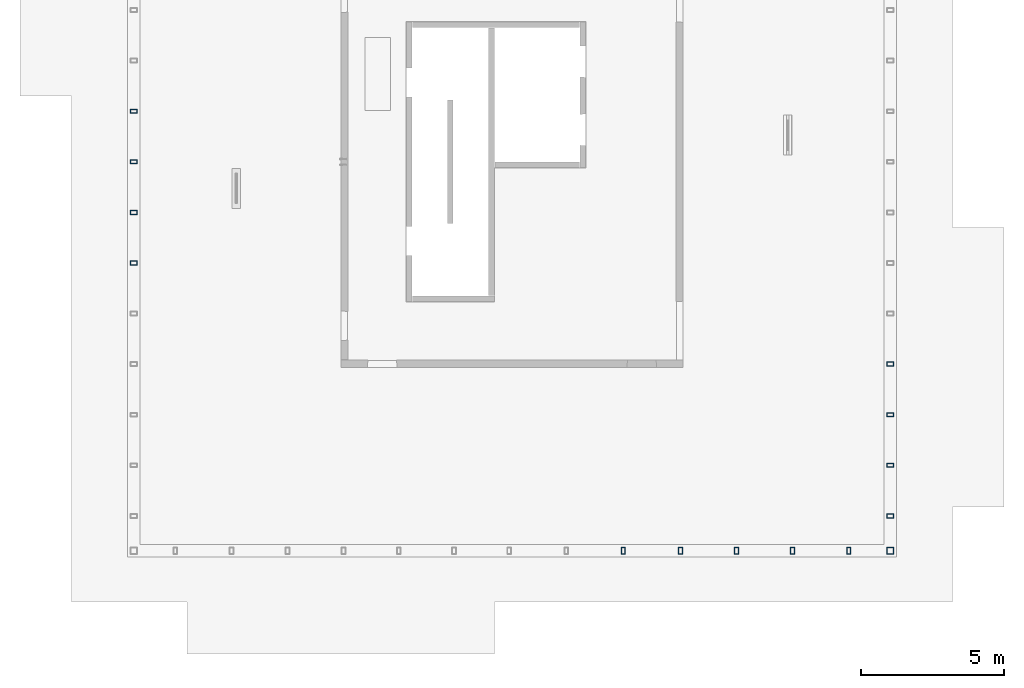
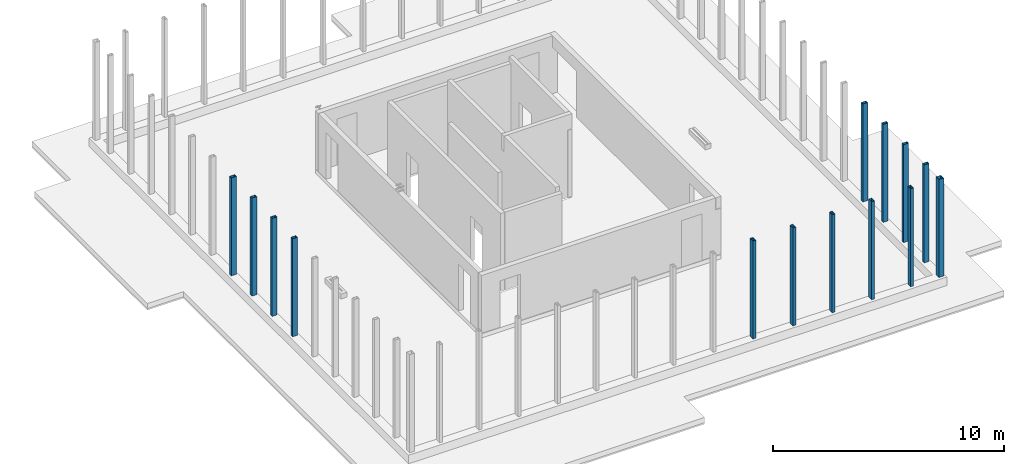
# One storey, part 2 of 9: 14 columns.
"""IFC2X3 building model written with IfcOpenShell, lengths in millimetres."""

from ifc_helpers import new_model, entity, si_unit, converted_unit, derived_unit, direction, frame, frame_2d, origin, place, context, subcontext, project, spatial, polyline, circle_curve, parameter, trimmed, segment, composite_curve, outline, extrude, source, transform, mapped, material, type_object, type_shapes, element, save


model = new_model("IFC2X3")

# Units and contexts
model_context = context("Model", 3, precision=0.01, world=origin(), true_north=direction((6.12303176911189e-17, 1.0)))
body_context = subcontext(model_context, "Body", "Model", "MODEL_VIEW")
ifc_project = project(units=[si_unit("LENGTHUNIT", "METRE", prefix="MILLI"), si_unit("AREAUNIT", "SQUARE_METRE"), si_unit("VOLUMEUNIT", "CUBIC_METRE"), converted_unit("PLANEANGLEUNIT", "DEGREE", entity("IfcRatioMeasure", 0.0174532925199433), si_unit("PLANEANGLEUNIT", "RADIAN"), dimensions=[0, 0, 0, 0, 0, 0, 0]), si_unit("MASSUNIT", "GRAM", prefix="KILO"), derived_unit("MASSDENSITYUNIT", [(si_unit("MASSUNIT", "GRAM", prefix="KILO"), 1), (si_unit("LENGTHUNIT", "METRE"), -3)]), si_unit("TIMEUNIT", "SECOND"), si_unit("FREQUENCYUNIT", "HERTZ"), si_unit("THERMODYNAMICTEMPERATUREUNIT", "DEGREE_CELSIUS"), derived_unit("THERMALTRANSMITTANCEUNIT", [(si_unit("MASSUNIT", "GRAM", prefix="KILO"), 1), (si_unit("THERMODYNAMICTEMPERATUREUNIT", "KELVIN"), -1), (si_unit("TIMEUNIT", "SECOND"), -3)]), derived_unit("VOLUMETRICFLOWRATEUNIT", [(si_unit("LENGTHUNIT", "METRE"), 3), (si_unit("TIMEUNIT", "SECOND"), -1)]), si_unit("ELECTRICCURRENTUNIT", "AMPERE"), si_unit("ELECTRICVOLTAGEUNIT", "VOLT"), si_unit("POWERUNIT", "WATT"), si_unit("FORCEUNIT", "NEWTON", prefix="KILO"), si_unit("ILLUMINANCEUNIT", "LUX"), si_unit("LUMINOUSFLUXUNIT", "LUMEN"), si_unit("LUMINOUSINTENSITYUNIT", "CANDELA"), derived_unit("USERDEFINED", [(si_unit("MASSUNIT", "GRAM", prefix="KILO"), -1), (si_unit("LENGTHUNIT", "METRE"), -2), (si_unit("TIMEUNIT", "SECOND"), 3), (si_unit("LUMINOUSFLUXUNIT", "LUMEN"), 1)]), derived_unit("LINEARVELOCITYUNIT", [(si_unit("LENGTHUNIT", "METRE"), 1), (si_unit("TIMEUNIT", "SECOND"), -1)]), si_unit("PRESSUREUNIT", "PASCAL"), derived_unit("USERDEFINED", [(si_unit("LENGTHUNIT", "METRE"), -2), (si_unit("MASSUNIT", "GRAM", prefix="KILO"), 1), (si_unit("TIMEUNIT", "SECOND"), -2)])], contexts=[model_context])

# Site, building, storey
site_placement = place(None, origin())
site = spatial("IfcSite", under=ifc_project, at=site_placement, Name="Default", CompositionType="ELEMENT")
building_placement = place(site_placement, origin())
building = spatial("IfcBuilding", under=site, at=building_placement, Name="niet gebruiken", CompositionType="ELEMENT")
storey_placement = place(building_placement, frame((0.0, 0.0, 178840.0)))
storey = spatial("IfcBuildingStorey", under=building, at=storey_placement, Name="57 zevenenvijftigste verdieping", CompositionType="ELEMENT", Elevation=178840.0)

# Columns
ifc_material = material(Name="NLRS_h2_staal")
column_type_1 = type_object("IfcColumnType", Name="kolom buisprofiel rechthoekig RHSH_250x150x16", PredefinedType="COLUMN", material=ifc_material)
shared_shape_1 = source(origin(), body_context, "Body", "SweptSolid", [
    extrude(outline(polyline([(-125.0, -75.0), (125.0, -75.0), (125.0, 75.0), (-125.0, 75.0), (-125.0, -75.0)]), holes=[composite_curve([segment(trimmed(circle_curve(frame_2d((-96.5000000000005, -46.5), x_axis=(0.0, 1.0)), 12.5), [parameter(90.0)], [parameter(180.0)], True, "PARAMETER"), False, "CONTINUOUS"), segment(polyline([(-109.0, -46.5), (-109.0, 46.5)]), True, "CONTINUOUS"), segment(trimmed(circle_curve(frame_2d((-96.5000000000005, 46.5), x_axis=(0.0, 1.0)), 12.5), [parameter(360.0)], [parameter(89.9999999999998)], True, "PARAMETER"), False, "CONTINUOUS"), segment(polyline([(-96.5000000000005, 59.0), (96.4999999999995, 59.0)]), True, "CONTINUOUS"), segment(trimmed(circle_curve(frame_2d((96.4999999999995, 46.5), x_axis=(0.0, 1.0)), 12.5), [parameter(270.0)], [parameter(360.0)], True, "PARAMETER"), False, "CONTINUOUS"), segment(polyline([(109.0, 46.5), (109.0, -46.5)]), True, "CONTINUOUS"), segment(trimmed(circle_curve(frame_2d((96.4999999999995, -46.5), x_axis=(0.0, 1.0)), 12.5), [parameter(180.0)], [parameter(270.0)], True, "PARAMETER"), False, "CONTINUOUS"), segment(polyline([(96.4999999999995, -59.0), (-96.5000000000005, -59.0)]), True, "CONTINUOUS")], self_intersect=False)]), frame((147650.0, 3870.0, 179010.0), z_axis=(0.0, 0.0, 1.0), x_axis=(0.0, -1.0, 0.0)), (0.0, 0.0, 1.0), 5190.00000000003),
])
type_shapes(column_type_1, [shared_shape_1])
column_1_placement = place(storey_placement, frame((0.0, 0.0, -178840.0)))
element("IfcColumn", 1, at=column_1_placement, inside=storey, type_object=column_type_1, material=ifc_material, Name="NLRS_28.11_SCO_TLB_stalen kolom buisprofiel rechthoekig_gen:kolom buisprofiel rechthoekig RHSH_250x150x16", ObjectType="kolom buisprofiel rechthoekig RHSH_250x150x16", context=body_context, shape_type="MappedRepresentation", body=[
    mapped(shared_shape_1, transform((0.0, 0.0, 0.0), scale=1.0)),
])
column_type_2 = type_object("IfcColumnType", Name="kolom buisprofiel rechthoekig RHSH_250x150x16", PredefinedType="COLUMN", material=ifc_material)
shared_shape_2 = source(origin(), body_context, "Body", "SweptSolid", [
    extrude(outline(polyline([(-125.0, -75.0), (125.0, -75.0), (125.0, 75.0), (-125.0, 75.0), (-125.0, -75.0)]), holes=[composite_curve([segment(trimmed(circle_curve(frame_2d((-96.5000000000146, -46.5), x_axis=(0.0, 1.0)), 12.5), [parameter(90.0)], [parameter(180.0)], True, "PARAMETER"), False, "CONTINUOUS"), segment(polyline([(-109.0, -46.5), (-109.0, 46.5)]), True, "CONTINUOUS"), segment(trimmed(circle_curve(frame_2d((-96.5000000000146, 46.5), x_axis=(0.0, 1.0)), 12.5), [parameter(360.0)], [parameter(89.9999999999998)], True, "PARAMETER"), False, "CONTINUOUS"), segment(polyline([(-96.5, 59.0), (96.4999999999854, 59.0)]), True, "CONTINUOUS"), segment(trimmed(circle_curve(frame_2d((96.4999999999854, 46.5), x_axis=(0.0, 1.0)), 12.5), [parameter(270.0)], [parameter(360.0)], True, "PARAMETER"), False, "CONTINUOUS"), segment(polyline([(109.0, 46.5), (109.0, -46.5)]), True, "CONTINUOUS"), segment(trimmed(circle_curve(frame_2d((96.4999999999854, -46.5), x_axis=(0.0, 1.0)), 12.5), [parameter(180.0)], [parameter(270.0)], True, "PARAMETER"), False, "CONTINUOUS"), segment(polyline([(96.4999999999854, -59.0), (-96.5, -59.0)]), True, "CONTINUOUS")], self_intersect=False)]), frame((128495.0, 17500.0, 179010.0)), (0.0, 0.0, 1.0), 5190.00000000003),
])
type_shapes(column_type_2, [shared_shape_2])
column_2_placement = place(storey_placement, frame((0.0, 0.0, -178840.0)))
element("IfcColumn", 2, at=column_2_placement, inside=storey, type_object=column_type_2, material=ifc_material, Name="NLRS_28.11_SCO_TLB_stalen kolom buisprofiel rechthoekig_gen:kolom buisprofiel rechthoekig RHSH_250x150x16", ObjectType="kolom buisprofiel rechthoekig RHSH_250x150x16", context=body_context, shape_type="MappedRepresentation", body=[
    mapped(shared_shape_2, transform((0.0, 0.0, 0.0), scale=1.0)),
])
column_type_3 = type_object("IfcColumnType", Name="kolom buisprofiel rechthoekig RHSH_250x150x16", PredefinedType="COLUMN", material=ifc_material)
shared_shape_3 = source(origin(), body_context, "Body", "SweptSolid", [
    extrude(outline(polyline([(-125.0, -75.0), (125.0, -75.0), (125.0, 75.0), (-125.0, 75.0), (-125.0, -75.0)]), holes=[composite_curve([segment(trimmed(circle_curve(frame_2d((-96.5, -46.5), x_axis=(0.0, 1.0)), 12.5), [parameter(90.0)], [parameter(180.0)], True, "PARAMETER"), False, "CONTINUOUS"), segment(polyline([(-109.0, -46.5), (-109.0, 46.5)]), True, "CONTINUOUS"), segment(trimmed(circle_curve(frame_2d((-96.5, 46.5), x_axis=(0.0, 1.0)), 12.5), [parameter(360.0)], [parameter(89.9999999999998)], True, "PARAMETER"), False, "CONTINUOUS"), segment(polyline([(-96.4999999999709, 59.0), (96.5000000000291, 59.0)]), True, "CONTINUOUS"), segment(trimmed(circle_curve(frame_2d((96.5000000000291, 46.5), x_axis=(0.0, 1.0)), 12.5), [parameter(270.0)], [parameter(360.0)], True, "PARAMETER"), False, "CONTINUOUS"), segment(polyline([(109.0, 46.5), (109.0, -46.5)]), True, "CONTINUOUS"), segment(trimmed(circle_curve(frame_2d((96.5000000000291, -46.5), x_axis=(0.0, 1.0)), 12.5), [parameter(180.0)], [parameter(270.0)], True, "PARAMETER"), False, "CONTINUOUS"), segment(polyline([(96.5000000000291, -59.0), (-96.4999999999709, -59.0)]), True, "CONTINUOUS")], self_intersect=False)]), frame((155005.0, 10410.0, 179010.0)), (0.0, 0.0, 1.0), 5190.00000000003),
])
type_shapes(column_type_3, [shared_shape_3])
column_3_placement = place(storey_placement, frame((0.0, 0.0, -178840.0)))
element("IfcColumn", 3, at=column_3_placement, inside=storey, type_object=column_type_3, material=ifc_material, Name="NLRS_28.11_SCO_TLB_stalen kolom buisprofiel rechthoekig_gen:kolom buisprofiel rechthoekig RHSH_250x150x16", ObjectType="kolom buisprofiel rechthoekig RHSH_250x150x16", context=body_context, shape_type="MappedRepresentation", body=[
    mapped(shared_shape_3, transform((0.0, 0.0, 0.0), scale=1.0)),
])
column_type_4 = type_object("IfcColumnType", Name="kolom buisprofiel rechthoekig RHSH_250x150x16", PredefinedType="COLUMN", material=ifc_material)
shared_shape_4 = source(origin(), body_context, "Body", "SweptSolid", [
    extrude(outline(polyline([(-125.0, -75.0), (125.0, -75.0), (125.0, 75.0), (-125.0, 75.0), (-125.0, -75.0)]), holes=[composite_curve([segment(trimmed(circle_curve(frame_2d((-96.5, -46.5), x_axis=(0.0, 1.0)), 12.5), [parameter(90.0)], [parameter(180.0)], True, "PARAMETER"), False, "CONTINUOUS"), segment(polyline([(-109.0, -46.5), (-109.0, 46.5000000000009)]), True, "CONTINUOUS"), segment(trimmed(circle_curve(frame_2d((-96.5, 46.5000000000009), x_axis=(0.0, 1.0)), 12.5), [parameter(360.0)], [parameter(89.9999999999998)], True, "PARAMETER"), False, "CONTINUOUS"), segment(polyline([(-96.4999999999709, 59.0), (96.5000000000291, 59.0)]), True, "CONTINUOUS"), segment(trimmed(circle_curve(frame_2d((96.5000000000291, 46.5000000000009), x_axis=(0.0, 1.0)), 12.5), [parameter(270.0)], [parameter(360.0)], True, "PARAMETER"), False, "CONTINUOUS"), segment(polyline([(109.0, 46.4999999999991), (109.0, -46.5)]), True, "CONTINUOUS"), segment(trimmed(circle_curve(frame_2d((96.5000000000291, -46.5), x_axis=(0.0, 1.0)), 12.5), [parameter(180.0)], [parameter(270.0)], True, "PARAMETER"), False, "CONTINUOUS"), segment(polyline([(96.5000000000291, -59.0), (-96.4999999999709, -59.0)]), True, "CONTINUOUS")], self_intersect=False)]), frame((155005.0, 5092.50000000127, 179010.0)), (0.0, 0.0, 1.0), 5190.00000000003),
])
type_shapes(column_type_4, [shared_shape_4])
column_4_placement = place(storey_placement, frame((0.0, 0.0, -178840.0)))
element("IfcColumn", 4, at=column_4_placement, inside=storey, type_object=column_type_4, material=ifc_material, Name="NLRS_28.11_SCO_TLB_stalen kolom buisprofiel rechthoekig_gen:kolom buisprofiel rechthoekig RHSH_250x150x16", ObjectType="kolom buisprofiel rechthoekig RHSH_250x150x16", context=body_context, shape_type="MappedRepresentation", body=[
    mapped(shared_shape_4, transform((0.0, 0.0, 0.0), scale=1.0)),
])
column_type_5 = type_object("IfcColumnType", Name="kolom buisprofiel rechthoekig RHSH_250x150x16", PredefinedType="COLUMN", material=ifc_material)
shared_shape_5 = source(origin(), body_context, "Body", "SweptSolid", [
    extrude(outline(polyline([(-125.0, -75.0), (125.0, -75.0), (125.0, 75.0), (-125.0, 75.0), (-125.0, -75.0)]), holes=[composite_curve([segment(trimmed(circle_curve(frame_2d((-96.5000000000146, -46.5), x_axis=(0.0, 1.0)), 12.5), [parameter(90.0)], [parameter(180.0)], True, "PARAMETER"), False, "CONTINUOUS"), segment(polyline([(-109.0, -46.5), (-109.0, 46.5)]), True, "CONTINUOUS"), segment(trimmed(circle_curve(frame_2d((-96.5000000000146, 46.5), x_axis=(0.0, 1.0)), 12.5), [parameter(360.0)], [parameter(89.9999999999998)], True, "PARAMETER"), False, "CONTINUOUS"), segment(polyline([(-96.5, 59.0), (96.4999999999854, 59.0)]), True, "CONTINUOUS"), segment(trimmed(circle_curve(frame_2d((96.4999999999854, 46.5), x_axis=(0.0, 1.0)), 12.5), [parameter(270.0)], [parameter(360.0)], True, "PARAMETER"), False, "CONTINUOUS"), segment(polyline([(109.0, 46.5), (109.0, -46.5)]), True, "CONTINUOUS"), segment(trimmed(circle_curve(frame_2d((96.4999999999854, -46.5), x_axis=(0.0, 1.0)), 12.5), [parameter(180.0)], [parameter(270.0)], True, "PARAMETER"), False, "CONTINUOUS"), segment(polyline([(96.4999999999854, -59.0), (-96.5, -59.0)]), True, "CONTINUOUS")], self_intersect=False)]), frame((128495.0, 19272.500000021, 179010.0)), (0.0, 0.0, 1.0), 5190.00000000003),
])
type_shapes(column_type_5, [shared_shape_5])
column_5_placement = place(storey_placement, frame((0.0, 0.0, -178840.0)))
element("IfcColumn", 5, at=column_5_placement, inside=storey, type_object=column_type_5, material=ifc_material, Name="NLRS_28.11_SCO_TLB_stalen kolom buisprofiel rechthoekig_gen:kolom buisprofiel rechthoekig RHSH_250x150x16", ObjectType="kolom buisprofiel rechthoekig RHSH_250x150x16", context=body_context, shape_type="MappedRepresentation", body=[
    mapped(shared_shape_5, transform((0.0, 0.0, 0.0), scale=1.0)),
])
column_type_6 = type_object("IfcColumnType", Name="kolom buisprofiel rechthoekig RHSH_250x150x16", PredefinedType="COLUMN", material=ifc_material)
shared_shape_6 = source(origin(), body_context, "Body", "SweptSolid", [
    extrude(outline(polyline([(-125.0, -75.0), (125.0, -75.0), (125.0, 75.0), (-125.0, 75.0), (-125.0, -75.0)]), holes=[composite_curve([segment(trimmed(circle_curve(frame_2d((-96.5000000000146, -46.5), x_axis=(0.0, 1.0)), 12.5), [parameter(90.0)], [parameter(180.0)], True, "PARAMETER"), False, "CONTINUOUS"), segment(polyline([(-109.0, -46.5), (-109.0, 46.5)]), True, "CONTINUOUS"), segment(trimmed(circle_curve(frame_2d((-96.5000000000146, 46.5), x_axis=(0.0, 1.0)), 12.5), [parameter(360.0)], [parameter(89.9999999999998)], True, "PARAMETER"), False, "CONTINUOUS"), segment(polyline([(-96.5, 59.0), (96.4999999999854, 59.0)]), True, "CONTINUOUS"), segment(trimmed(circle_curve(frame_2d((96.4999999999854, 46.5), x_axis=(0.0, 1.0)), 12.5), [parameter(270.0)], [parameter(360.0)], True, "PARAMETER"), False, "CONTINUOUS"), segment(polyline([(109.0, 46.5), (109.0, -46.5)]), True, "CONTINUOUS"), segment(trimmed(circle_curve(frame_2d((96.4999999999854, -46.5), x_axis=(0.0, 1.0)), 12.5), [parameter(180.0)], [parameter(270.0)], True, "PARAMETER"), False, "CONTINUOUS"), segment(polyline([(96.4999999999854, -59.0), (-96.5, -59.0)]), True, "CONTINUOUS")], self_intersect=False)]), frame((128495.0, 15727.5000000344, 179010.0)), (0.0, 0.0, 1.0), 5190.00000000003),
])
type_shapes(column_type_6, [shared_shape_6])
column_6_placement = place(storey_placement, frame((0.0, 0.0, -178840.0)))
element("IfcColumn", 6, at=column_6_placement, inside=storey, type_object=column_type_6, material=ifc_material, Name="NLRS_28.11_SCO_TLB_stalen kolom buisprofiel rechthoekig_gen:kolom buisprofiel rechthoekig RHSH_250x150x16", ObjectType="kolom buisprofiel rechthoekig RHSH_250x150x16", context=body_context, shape_type="MappedRepresentation", body=[
    mapped(shared_shape_6, transform((0.0, 0.0, 0.0), scale=1.0)),
])
column_type_7 = type_object("IfcColumnType", Name="kolom buisprofiel rechthoekig RHSH_250x150x16", PredefinedType="COLUMN", material=ifc_material)
shared_shape_7 = source(origin(), body_context, "Body", "SweptSolid", [
    extrude(outline(polyline([(-125.0, -75.0), (125.0, -75.0), (125.0, 75.0), (-125.0, 75.0), (-125.0, -75.0)]), holes=[composite_curve([segment(trimmed(circle_curve(frame_2d((-96.5000000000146, -46.5), x_axis=(0.0, 1.0)), 12.5), [parameter(90.0)], [parameter(180.0)], True, "PARAMETER"), False, "CONTINUOUS"), segment(polyline([(-109.0, -46.5), (-109.0, 46.5)]), True, "CONTINUOUS"), segment(trimmed(circle_curve(frame_2d((-96.5000000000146, 46.5), x_axis=(0.0, 1.0)), 12.5), [parameter(360.0)], [parameter(89.9999999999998)], True, "PARAMETER"), False, "CONTINUOUS"), segment(polyline([(-96.5, 59.0), (96.4999999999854, 59.0)]), True, "CONTINUOUS"), segment(trimmed(circle_curve(frame_2d((96.4999999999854, 46.5), x_axis=(0.0, 1.0)), 12.5), [parameter(270.0)], [parameter(360.0)], True, "PARAMETER"), False, "CONTINUOUS"), segment(polyline([(109.0, 46.5), (109.0, -46.5)]), True, "CONTINUOUS"), segment(trimmed(circle_curve(frame_2d((96.4999999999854, -46.5), x_axis=(0.0, 1.0)), 12.5), [parameter(180.0)], [parameter(270.0)], True, "PARAMETER"), False, "CONTINUOUS"), segment(polyline([(96.4999999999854, -59.0), (-96.5, -59.0)]), True, "CONTINUOUS")], self_intersect=False)]), frame((128495.0, 13955.0, 179010.0)), (0.0, 0.0, 1.0), 5190.00000000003),
])
type_shapes(column_type_7, [shared_shape_7])
column_7_placement = place(storey_placement, frame((0.0, 0.0, -178840.0)))
element("IfcColumn", 7, at=column_7_placement, inside=storey, type_object=column_type_7, material=ifc_material, Name="NLRS_28.11_SCO_TLB_stalen kolom buisprofiel rechthoekig_gen:kolom buisprofiel rechthoekig RHSH_250x150x16", ObjectType="kolom buisprofiel rechthoekig RHSH_250x150x16", context=body_context, shape_type="MappedRepresentation", body=[
    mapped(shared_shape_7, transform((0.0, 0.0, 0.0), scale=1.0)),
])
column_type_8 = type_object("IfcColumnType", Name="kolom buisprofiel rechthoekig RHSH_250x150x16", PredefinedType="COLUMN", material=ifc_material)
shared_shape_8 = source(origin(), body_context, "Body", "SweptSolid", [
    extrude(outline(polyline([(-125.0, -75.0), (125.0, -75.0), (125.0, 75.0), (-125.0, 75.0), (-125.0, -75.0)]), holes=[composite_curve([segment(trimmed(circle_curve(frame_2d((-96.5, -46.5), x_axis=(0.0, 1.0)), 12.5), [parameter(90.0)], [parameter(180.0)], True, "PARAMETER"), False, "CONTINUOUS"), segment(polyline([(-109.0, -46.5), (-109.0, 46.5)]), True, "CONTINUOUS"), segment(trimmed(circle_curve(frame_2d((-96.5, 46.5), x_axis=(0.0, 1.0)), 12.5), [parameter(360.0)], [parameter(89.9999999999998)], True, "PARAMETER"), False, "CONTINUOUS"), segment(polyline([(-96.4999999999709, 59.0), (96.5000000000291, 59.0)]), True, "CONTINUOUS"), segment(trimmed(circle_curve(frame_2d((96.5000000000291, 46.5), x_axis=(0.0, 1.0)), 12.5), [parameter(270.0)], [parameter(360.0)], True, "PARAMETER"), False, "CONTINUOUS"), segment(polyline([(109.0, 46.4999999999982), (109.0, -46.5)]), True, "CONTINUOUS"), segment(trimmed(circle_curve(frame_2d((96.5000000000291, -46.5), x_axis=(0.0, 1.0)), 12.5), [parameter(180.0)], [parameter(270.0)], True, "PARAMETER"), False, "CONTINUOUS"), segment(polyline([(96.5000000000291, -59.0), (-96.4999999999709, -59.0)]), True, "CONTINUOUS")], self_intersect=False)]), frame((155005.0, 8637.50000000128, 179010.0)), (0.0, 0.0, 1.0), 5190.00000000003),
])
type_shapes(column_type_8, [shared_shape_8])
column_8_placement = place(storey_placement, frame((0.0, 0.0, -178840.0)))
element("IfcColumn", 8, at=column_8_placement, inside=storey, type_object=column_type_8, material=ifc_material, Name="NLRS_28.11_SCO_TLB_stalen kolom buisprofiel rechthoekig_gen:kolom buisprofiel rechthoekig RHSH_250x150x16", ObjectType="kolom buisprofiel rechthoekig RHSH_250x150x16", context=body_context, shape_type="MappedRepresentation", body=[
    mapped(shared_shape_8, transform((0.0, 0.0, 0.0), scale=1.0)),
])
column_type_9 = type_object("IfcColumnType", Name="kolom buisprofiel rechthoekig RHSH_250x150x16", PredefinedType="COLUMN", material=ifc_material)
shared_shape_9 = source(origin(), body_context, "Body", "SweptSolid", [
    extrude(outline(polyline([(-125.0, -75.0), (125.0, -75.0), (125.0, 75.0), (-125.0, 75.0), (-125.0, -75.0)]), holes=[composite_curve([segment(trimmed(circle_curve(frame_2d((-96.5, -46.5), x_axis=(0.0, 1.0)), 12.5), [parameter(90.0)], [parameter(180.0)], True, "PARAMETER"), False, "CONTINUOUS"), segment(polyline([(-109.0, -46.5), (-109.0, 46.5000000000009)]), True, "CONTINUOUS"), segment(trimmed(circle_curve(frame_2d((-96.5, 46.5000000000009), x_axis=(0.0, 1.0)), 12.5), [parameter(360.0)], [parameter(89.9999999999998)], True, "PARAMETER"), False, "CONTINUOUS"), segment(polyline([(-96.4999999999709, 59.0), (96.5000000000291, 59.0)]), True, "CONTINUOUS"), segment(trimmed(circle_curve(frame_2d((96.5000000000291, 46.5000000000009), x_axis=(0.0, 1.0)), 12.5), [parameter(270.0)], [parameter(360.0)], True, "PARAMETER"), False, "CONTINUOUS"), segment(polyline([(109.0, 46.5), (109.0, -46.5)]), True, "CONTINUOUS"), segment(trimmed(circle_curve(frame_2d((96.5000000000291, -46.5), x_axis=(0.0, 1.0)), 12.5), [parameter(180.0)], [parameter(270.0)], True, "PARAMETER"), False, "CONTINUOUS"), segment(polyline([(96.5000000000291, -59.0), (-96.4999999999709, -59.0)]), True, "CONTINUOUS")], self_intersect=False)]), frame((155005.0, 6865.0, 179010.0)), (0.0, 0.0, 1.0), 5190.00000000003),
])
type_shapes(column_type_9, [shared_shape_9])
column_9_placement = place(storey_placement, frame((0.0, 0.0, -178840.0)))
element("IfcColumn", 9, at=column_9_placement, inside=storey, type_object=column_type_9, material=ifc_material, Name="NLRS_28.11_SCO_TLB_stalen kolom buisprofiel rechthoekig_gen:kolom buisprofiel rechthoekig RHSH_250x150x16", ObjectType="kolom buisprofiel rechthoekig RHSH_250x150x16", context=body_context, shape_type="MappedRepresentation", body=[
    mapped(shared_shape_9, transform((0.0, 0.0, 0.0), scale=1.0)),
])
column_type_10 = type_object("IfcColumnType", Name="kolom buisprofiel rechthoekig RHSH_250x150x16", PredefinedType="COLUMN", material=ifc_material)
shared_shape_10 = source(origin(), body_context, "Body", "SweptSolid", [
    extrude(outline(polyline([(-125.0, -75.0), (125.0, -75.0), (125.0, 75.0), (-125.0, 75.0), (-125.0, -75.0)]), holes=[composite_curve([segment(trimmed(circle_curve(frame_2d((-96.4999999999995, -46.5), x_axis=(0.0, 1.0)), 12.5), [parameter(90.0)], [parameter(180.0)], True, "PARAMETER"), False, "CONTINUOUS"), segment(polyline([(-109.0, -46.5), (-109.0, 46.5)]), True, "CONTINUOUS"), segment(trimmed(circle_curve(frame_2d((-96.4999999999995, 46.5), x_axis=(0.0, 1.0)), 12.5), [parameter(360.0)], [parameter(89.9999999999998)], True, "PARAMETER"), False, "CONTINUOUS"), segment(polyline([(-96.4999999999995, 59.0), (96.5000000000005, 59.0)]), True, "CONTINUOUS"), segment(trimmed(circle_curve(frame_2d((96.5000000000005, 46.5), x_axis=(0.0, 1.0)), 12.5), [parameter(270.0)], [parameter(360.0)], True, "PARAMETER"), False, "CONTINUOUS"), segment(polyline([(109.0, 46.5), (109.0, -46.5)]), True, "CONTINUOUS"), segment(trimmed(circle_curve(frame_2d((96.5000000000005, -46.5), x_axis=(0.0, 1.0)), 12.5), [parameter(180.0)], [parameter(270.0)], True, "PARAMETER"), False, "CONTINUOUS"), segment(polyline([(96.5000000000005, -59.0), (-96.4999999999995, -59.0)]), True, "CONTINUOUS")], self_intersect=False)]), frame((145650.0, 3870.0, 179010.0), z_axis=(0.0, 0.0, 1.0), x_axis=(0.0, -1.0, 0.0)), (0.0, 0.0, 1.0), 5190.00000000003),
])
type_shapes(column_type_10, [shared_shape_10])
column_10_placement = place(storey_placement, frame((0.0, 0.0, -178840.0)))
element("IfcColumn", 10, at=column_10_placement, inside=storey, type_object=column_type_10, material=ifc_material, Name="NLRS_28.11_SCO_TLB_stalen kolom buisprofiel rechthoekig_gen:kolom buisprofiel rechthoekig RHSH_250x150x16", ObjectType="kolom buisprofiel rechthoekig RHSH_250x150x16", context=body_context, shape_type="MappedRepresentation", body=[
    mapped(shared_shape_10, transform((0.0, 0.0, 0.0), scale=1.0)),
])
column_type_11 = type_object("IfcColumnType", Name="kolom buisprofiel rechthoekig RHSH_250x150x16", PredefinedType="COLUMN", material=ifc_material)
shared_shape_11 = source(origin(), body_context, "Body", "SweptSolid", [
    extrude(outline(polyline([(-125.0, -75.0), (125.0, -75.0), (125.0, 75.0), (-125.0, 75.0), (-125.0, -75.0)]), holes=[composite_curve([segment(trimmed(circle_curve(frame_2d((-96.5, -46.5), x_axis=(0.0, 1.0)), 12.5), [parameter(90.0)], [parameter(180.0)], True, "PARAMETER"), False, "CONTINUOUS"), segment(polyline([(-109.0, -46.5), (-109.0, 46.5)]), True, "CONTINUOUS"), segment(trimmed(circle_curve(frame_2d((-96.5, 46.5), x_axis=(0.0, 1.0)), 12.5), [parameter(360.0)], [parameter(89.9999999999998)], True, "PARAMETER"), False, "CONTINUOUS"), segment(polyline([(-96.5, 59.0), (96.5, 59.0)]), True, "CONTINUOUS"), segment(trimmed(circle_curve(frame_2d((96.5, 46.5), x_axis=(0.0, 1.0)), 12.5), [parameter(270.0)], [parameter(360.0)], True, "PARAMETER"), False, "CONTINUOUS"), segment(polyline([(109.0, 46.5), (109.0, -46.5)]), True, "CONTINUOUS"), segment(trimmed(circle_curve(frame_2d((96.5, -46.5), x_axis=(0.0, 1.0)), 12.5), [parameter(180.0)], [parameter(270.0)], True, "PARAMETER"), False, "CONTINUOUS"), segment(polyline([(96.5, -59.0), (-96.5, -59.0)]), True, "CONTINUOUS")], self_intersect=False)]), frame((149616.666666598, 3870.0, 179010.0), z_axis=(0.0, 0.0, 1.0), x_axis=(0.0, -1.0, 0.0)), (0.0, 0.0, 1.0), 5190.00000000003),
])
type_shapes(column_type_11, [shared_shape_11])
column_11_placement = place(storey_placement, frame((0.0, 0.0, -178840.0)))
element("IfcColumn", 11, at=column_11_placement, inside=storey, type_object=column_type_11, material=ifc_material, Name="NLRS_28.11_SCO_TLB_stalen kolom buisprofiel rechthoekig_gen:kolom buisprofiel rechthoekig RHSH_250x150x16", ObjectType="kolom buisprofiel rechthoekig RHSH_250x150x16", context=body_context, shape_type="MappedRepresentation", body=[
    mapped(shared_shape_11, transform((0.0, 0.0, 0.0), scale=1.0)),
])
column_type_12 = type_object("IfcColumnType", Name="kolom buisprofiel rechthoekig RHSH_250x150x16", PredefinedType="COLUMN", material=ifc_material)
shared_shape_12 = source(origin(), body_context, "Body", "SweptSolid", [
    extrude(outline(polyline([(-125.0, -75.0), (125.0, -75.0), (125.0, 75.0), (-125.0, 75.0), (-125.0, -75.0)]), holes=[composite_curve([segment(trimmed(circle_curve(frame_2d((-96.4999999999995, -46.5), x_axis=(0.0, 1.0)), 12.5), [parameter(90.0)], [parameter(180.0)], True, "PARAMETER"), False, "CONTINUOUS"), segment(polyline([(-109.0, -46.5), (-109.0, 46.4999999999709)]), True, "CONTINUOUS"), segment(trimmed(circle_curve(frame_2d((-96.4999999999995, 46.4999999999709), x_axis=(0.0, 1.0)), 12.5), [parameter(360.0)], [parameter(89.9999999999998)], True, "PARAMETER"), False, "CONTINUOUS"), segment(polyline([(-96.4999999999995, 59.0), (96.5, 59.0)]), True, "CONTINUOUS"), segment(trimmed(circle_curve(frame_2d((96.5, 46.4999999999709), x_axis=(0.0, 1.0)), 12.5), [parameter(270.0)], [parameter(360.0)], True, "PARAMETER"), False, "CONTINUOUS"), segment(polyline([(109.0, 46.4999999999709), (109.0, -46.5)]), True, "CONTINUOUS"), segment(trimmed(circle_curve(frame_2d((96.5, -46.5), x_axis=(0.0, 1.0)), 12.5), [parameter(180.0)], [parameter(270.0)], True, "PARAMETER"), False, "CONTINUOUS"), segment(polyline([(96.5, -59.0), (-96.4999999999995, -59.0)]), True, "CONTINUOUS")], self_intersect=False)]), frame((151583.333333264, 3870.0, 179010.0), z_axis=(0.0, 0.0, 1.0), x_axis=(0.0, -1.0, 0.0)), (0.0, 0.0, 1.0), 5190.00000000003),
])
type_shapes(column_type_12, [shared_shape_12])
column_12_placement = place(storey_placement, frame((0.0, 0.0, -178840.0)))
element("IfcColumn", 12, at=column_12_placement, inside=storey, type_object=column_type_12, material=ifc_material, Name="NLRS_28.11_SCO_TLB_stalen kolom buisprofiel rechthoekig_gen:kolom buisprofiel rechthoekig RHSH_250x150x16", ObjectType="kolom buisprofiel rechthoekig RHSH_250x150x16", context=body_context, shape_type="MappedRepresentation", body=[
    mapped(shared_shape_12, transform((0.0, 0.0, 0.0), scale=1.0)),
])
column_type_13 = type_object("IfcColumnType", Name="kolom buisprofiel rechthoekig RHSH_250x150x16", PredefinedType="COLUMN", material=ifc_material)
shared_shape_13 = source(origin(), body_context, "Body", "SweptSolid", [
    extrude(outline(polyline([(-125.0, -75.0), (125.0, -75.0), (125.0, 75.0), (-125.0, 75.0), (-125.0, -75.0)]), holes=[composite_curve([segment(trimmed(circle_curve(frame_2d((-96.4999999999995, -46.4999999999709), x_axis=(0.0, 1.0)), 12.5), [parameter(90.0)], [parameter(180.0)], True, "PARAMETER"), False, "CONTINUOUS"), segment(polyline([(-109.0, -46.4999999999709), (-109.0, 46.5)]), True, "CONTINUOUS"), segment(trimmed(circle_curve(frame_2d((-96.4999999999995, 46.5), x_axis=(0.0, 1.0)), 12.5), [parameter(360.0)], [parameter(89.9999999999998)], True, "PARAMETER"), False, "CONTINUOUS"), segment(polyline([(-96.4999999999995, 59.0), (96.5000000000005, 59.0)]), True, "CONTINUOUS"), segment(trimmed(circle_curve(frame_2d((96.5000000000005, 46.5), x_axis=(0.0, 1.0)), 12.5), [parameter(270.0)], [parameter(360.0)], True, "PARAMETER"), False, "CONTINUOUS"), segment(polyline([(109.0, 46.5), (109.0, -46.4999999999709)]), True, "CONTINUOUS"), segment(trimmed(circle_curve(frame_2d((96.5000000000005, -46.4999999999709), x_axis=(0.0, 1.0)), 12.5), [parameter(180.0)], [parameter(270.0)], True, "PARAMETER"), False, "CONTINUOUS"), segment(polyline([(96.5000000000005, -59.0), (-96.4999999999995, -59.0)]), True, "CONTINUOUS")], self_intersect=False)]), frame((153550.0, 3870.0, 179010.0), z_axis=(0.0, 0.0, 1.0), x_axis=(0.0, -1.0, 0.0)), (0.0, 0.0, 1.0), 5190.00000000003),
])
type_shapes(column_type_13, [shared_shape_13])
column_13_placement = place(storey_placement, frame((0.0, 0.0, -178840.0)))
element("IfcColumn", 13, at=column_13_placement, inside=storey, type_object=column_type_13, material=ifc_material, Name="NLRS_28.11_SCO_TLB_stalen kolom buisprofiel rechthoekig_gen:kolom buisprofiel rechthoekig RHSH_250x150x16", ObjectType="kolom buisprofiel rechthoekig RHSH_250x150x16", context=body_context, shape_type="MappedRepresentation", body=[
    mapped(shared_shape_13, transform((0.0, 0.0, 0.0), scale=1.0)),
])
column_type_14 = type_object("IfcColumnType", Name="kolom buisprofiel warmgevormd vierkant SHSH_250x250x16", PredefinedType="COLUMN", material=ifc_material)
shared_shape_14 = source(origin(), body_context, "Body", "SweptSolid", [
    extrude(outline(polyline([(-125.0, -125.0), (125.0, -125.0), (125.0, 125.0), (-125.0, 125.0), (-125.0, -125.0)]), holes=[composite_curve([segment(trimmed(circle_curve(frame_2d((-99.0, -99.0), x_axis=(0.0, 1.0)), 10.0), [parameter(90.0000000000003)], [parameter(180.0)], True, "PARAMETER"), False, "CONTINUOUS"), segment(polyline([(-109.0, -99.0), (-109.0, 99.0)]), True, "CONTINUOUS"), segment(trimmed(circle_curve(frame_2d((-99.0, 99.0), x_axis=(0.0, 1.0)), 10.0), [parameter(0.0)], [parameter(89.9999999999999)], True, "PARAMETER"), False, "CONTINUOUS"), segment(polyline([(-99.0, 109.0), (99.0, 109.0)]), True, "CONTINUOUS"), segment(trimmed(circle_curve(frame_2d((99.0, 99.0), x_axis=(0.0, 1.0)), 10.0), [parameter(270.0)], [parameter(360.0)], True, "PARAMETER"), False, "CONTINUOUS"), segment(polyline([(109.0, 99.0), (109.0, -99.0)]), True, "CONTINUOUS"), segment(trimmed(circle_curve(frame_2d((99.0, -99.0), x_axis=(0.0, 1.0)), 10.0), [parameter(180.0)], [parameter(270.0)], True, "PARAMETER"), False, "CONTINUOUS"), segment(polyline([(99.0, -109.0), (-99.0, -109.0)]), True, "CONTINUOUS")], self_intersect=False)]), frame((155005.0, 3870.0, 179010.0), z_axis=(0.0, 0.0, 1.0), x_axis=(0.0, -1.0, 0.0)), (0.0, 0.0, 1.0), 5190.00000000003),
])
type_shapes(column_type_14, [shared_shape_14])
column_14_placement = place(storey_placement, frame((0.0, 0.0, -178840.0)))
element("IfcColumn", 14, at=column_14_placement, inside=storey, type_object=column_type_14, material=ifc_material, Name="NLRS_28.11_SCO_TLB_stalen kolom buisprofiel warmgevormd vierkant_gen:kolom buisprofiel warmgevormd vierkant SHSH_250x250x16", ObjectType="kolom buisprofiel warmgevormd vierkant SHSH_250x250x16", context=body_context, shape_type="MappedRepresentation", body=[
    mapped(shared_shape_14, transform((0.0, 0.0, 0.0), scale=1.0)),
])

save(model, "model.ifc")
